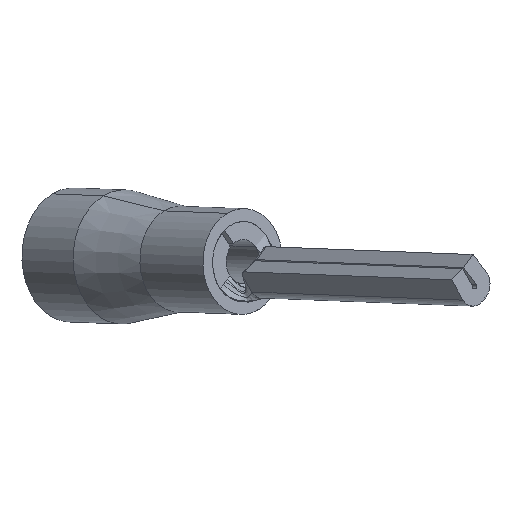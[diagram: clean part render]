
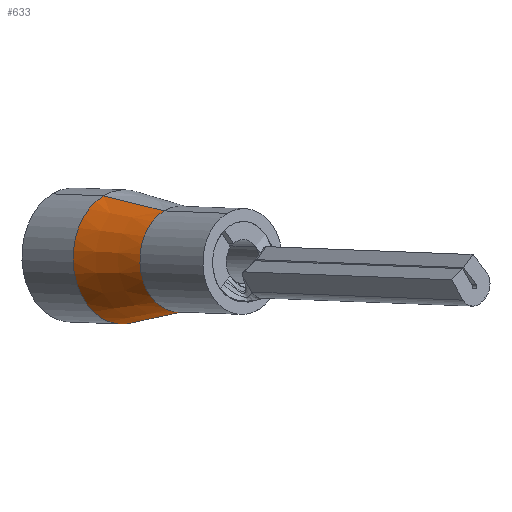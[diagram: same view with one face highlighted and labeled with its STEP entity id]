
A CAD part, isometric view. The second image highlights one B-rep face of the part: STEP entity #633.
In plain terms, the highlighted conical face has half-angle 9.462 degrees and reference radius 2.05 mm.
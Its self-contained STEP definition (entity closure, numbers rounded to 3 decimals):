
#165 = EDGE_CURVE ( 'NONE', #1118, #1071, #901, .T. ) ;
#186 = CARTESIAN_POINT ( 'NONE',  ( 0., 3.7, 0. ) ) ;
#303 = CARTESIAN_POINT ( 'NONE',  ( 0., 3.7, 2.05 ) ) ;
#318 = DIRECTION ( 'NONE',  ( 0., 1., 0. ) ) ;
#403 = CARTESIAN_POINT ( 'NONE',  ( 0., 7., 2.6 ) ) ;
#418 = EDGE_LOOP ( 'NONE', ( #937, #1550, #586, #660 ) ) ;
#423 = DIRECTION ( 'NONE',  ( 0., 0.986, -0.164 ) ) ;
#429 = EDGE_CURVE ( 'NONE', #442, #882, #570, .T. ) ;
#442 = VERTEX_POINT ( 'NONE', #303 ) ;
#570 = CIRCLE ( 'NONE', #1416, 2.05 ) ;
#586 = ORIENTED_EDGE ( 'NONE', *, *, #1302, .T. ) ;
#621 = CARTESIAN_POINT ( 'NONE',  ( 0., 7., 0. ) ) ;
#633 = ADVANCED_FACE ( 'NONE', ( #1401 ), #667, .T. ) ;
#660 = ORIENTED_EDGE ( 'NONE', *, *, #165, .T. ) ;
#667 = CONICAL_SURFACE ( 'NONE', #789, 2.05, 0.165 ) ;
#789 = AXIS2_PLACEMENT_3D ( 'NONE', #883, #318, #1750 ) ;
#813 = DIRECTION ( 'NONE',  ( 0., -1., 0. ) ) ;
#865 = LINE ( 'NONE', #1693, #1502 ) ;
#882 = VERTEX_POINT ( 'NONE', #1246 ) ;
#883 = CARTESIAN_POINT ( 'NONE',  ( 0., 3.7, 0. ) ) ;
#901 = CIRCLE ( 'NONE', #1336, 2.6 ) ;
#937 = ORIENTED_EDGE ( 'NONE', *, *, #1812, .F. ) ;
#962 = CARTESIAN_POINT ( 'NONE',  ( 0., 7., -2.6 ) ) ;
#1037 = DIRECTION ( 'NONE',  ( 0., -1., 0. ) ) ;
#1071 = VERTEX_POINT ( 'NONE', #962 ) ;
#1118 = VERTEX_POINT ( 'NONE', #403 ) ;
#1246 = CARTESIAN_POINT ( 'NONE',  ( 0., 3.7, -2.05 ) ) ;
#1260 = DIRECTION ( 'NONE',  ( 0., 0.986, 0.164 ) ) ;
#1272 = CARTESIAN_POINT ( 'NONE',  ( 0., 3.7, -2.05 ) ) ;
#1293 = VECTOR ( 'NONE', #423, 1000. ) ;
#1302 = EDGE_CURVE ( 'NONE', #442, #1118, #865, .T. ) ;
#1336 = AXIS2_PLACEMENT_3D ( 'NONE', #621, #813, #1819 ) ;
#1401 = FACE_OUTER_BOUND ( 'NONE', #418, .T. ) ;
#1416 = AXIS2_PLACEMENT_3D ( 'NONE', #186, #1037, #1753 ) ;
#1502 = VECTOR ( 'NONE', #1260, 1000. ) ;
#1550 = ORIENTED_EDGE ( 'NONE', *, *, #429, .F. ) ;
#1693 = CARTESIAN_POINT ( 'NONE',  ( 0., 3.7, 2.05 ) ) ;
#1724 = LINE ( 'NONE', #1272, #1293 ) ;
#1750 = DIRECTION ( 'NONE',  ( 0., 0., 1. ) ) ;
#1753 = DIRECTION ( 'NONE',  ( 0., 0., -1. ) ) ;
#1812 = EDGE_CURVE ( 'NONE', #882, #1071, #1724, .T. ) ;
#1819 = DIRECTION ( 'NONE',  ( 0., 0., -1. ) ) ;
